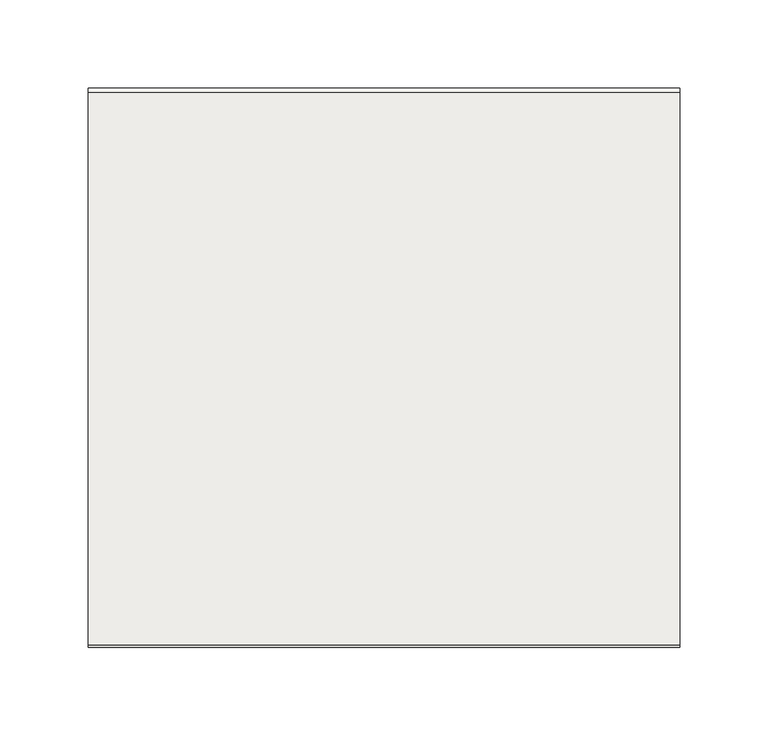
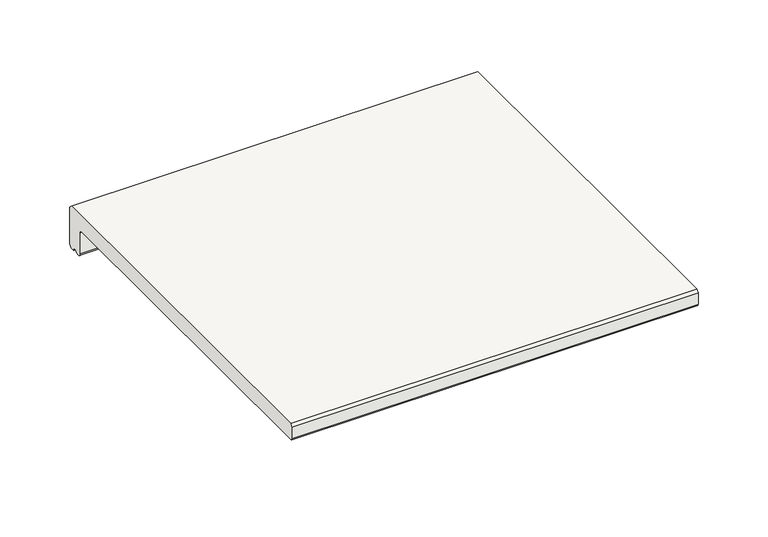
"""IFC4 building model written with IfcOpenShell, lengths in millimetres: slab geometry, ROSA GRES_L62 : Pieza L62_Serena_Ocra_Anti-Slip."""

from ifc_helpers import new_model, si_unit, point, frame, frame_2d, origin, place, context, project, spatial, polyline, circle_curve, trimmed, segment, composite_curve, outline, extrude, source, transform, mapped, element, save


def slab_712858f9(model_context):
    return source(origin(), model_context, "Body", "SweptSolid", [
        extrude(outline(composite_curve([segment(trimmed(circle_curve(frame_2d((-12.1001991, -35.1001991)), 1.8998009), [point((-12.1001991, -37.0))], [point((-14.0, -35.1001991))], False, "CARTESIAN"), True, "CONTINUOUS"), segment(polyline([(-14.0, -35.1001991), (-14.0, -16.5836242)]), True, "CONTINUOUS"), segment(trimmed(circle_curve(frame_2d((-16.6422322, -16.5836242)), 2.6422322), [point((-14.0, -16.5836242))], [point((-16.6422322, -13.9413919))], True, "CARTESIAN"), True, "CONTINUOUS"), segment(polyline([(-16.6422322, -13.9413919), (-315.5234432, -13.9413919)]), True, "CONTINUOUS"), segment(trimmed(circle_curve(frame_2d((-315.5234432, -12.4648352)), 1.4765568), [point((-315.5234432, -13.9413919))], [point((-317.0, -12.4648352))], False, "CARTESIAN"), True, "CONTINUOUS"), segment(polyline([(-317.0, -12.4648352), (-317.0, -2.5), (-315.5, 0.0), (-2.5, 0.0), (0.0, -2.5), (0.0, -34.5)]), True, "CONTINUOUS"), segment(trimmed(circle_curve(frame_2d((-2.5, -34.5)), 2.5), [point((0.0, -34.5))], [point((-2.5, -37.0))], False, "CARTESIAN"), True, "CONTINUOUS"), segment(polyline([(-2.5, -37.0), (-5.422949, -37.0)]), True, "CONTINUOUS"), segment(trimmed(circle_curve(frame_2d((-7.4142134, -37.0)), 1.9912643), [point((-5.422949, -37.0))], [point((-9.4054777, -37.0))], True, "CARTESIAN"), True, "CONTINUOUS"), segment(polyline([(-9.4054777, -37.0), (-12.1001991, -37.0)]), True, "CONTINUOUS")], self_intersect=False)), frame((0.0, 0.0, 0.0), z_axis=(1.0, 0.0, 0.0), x_axis=(0.0, 1.0, 0.0)), (0.0, 0.0, 1.0), 335.0),
    ])


if __name__ == "__main__":
    model = new_model("IFC4")
    model_context = context("Model", 3, world=origin())
    ifc_project = project(units=[si_unit("LENGTHUNIT", "METRE", prefix="MILLI")], contexts=[model_context])
    site = spatial("IfcSite", under=ifc_project)
    building = spatial("IfcBuilding", under=site)
    placement = place(None, origin())
    slab_shape = slab_712858f9(model_context)
    element("IfcSlab", 1, ObjectType="ROSA GRES_L62 : Pieza L62_Serena_Ocra_Anti-Slip", at=placement, inside=building, context=model_context, shape_type="MappedRepresentation", body=[
        mapped(slab_shape, transform((0.0, 0.0, 0.0), x_axis=(1.0, 0.0, 0.0), y_axis=(0.0, 1.0, 0.0), z_axis=(0.0, 0.0, 1.0))),
    ])
    save(model, "model.ifc")
